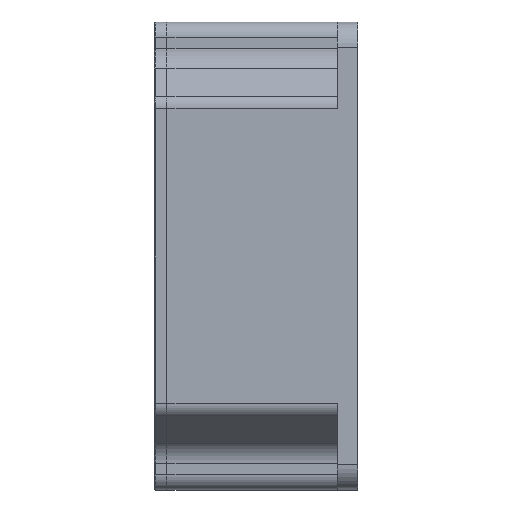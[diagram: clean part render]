
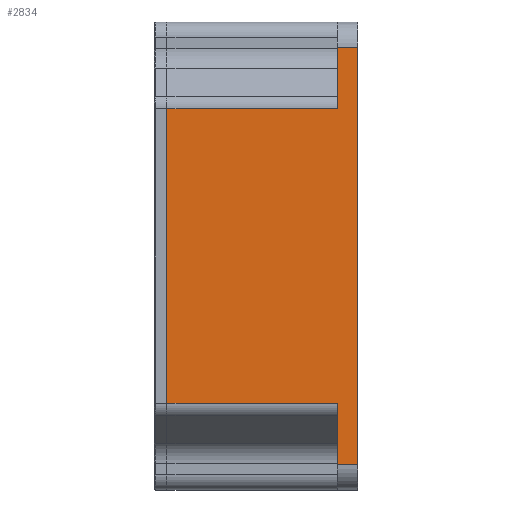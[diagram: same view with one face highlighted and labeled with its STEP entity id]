
A CAD part, left-side view. The second image highlights one B-rep face of the part: STEP entity #2834.
In plain terms, the highlighted planar face has unit normal (-1, 0, 0).
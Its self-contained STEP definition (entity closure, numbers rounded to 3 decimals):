
#2306 = LINE ( 'NONE', #2307, #21369 ) ;
#2307 = CARTESIAN_POINT ( 'NONE',  ( -53.5, -33.5, -46.2 ) ) ;
#2316 = DIRECTION ( 'NONE',  ( 0., 0., 1. ) ) ;
#2328 = CARTESIAN_POINT ( 'NONE',  ( -53.5, -33.5, 46.2 ) ) ;
#2333 = LINE ( 'NONE', #2328, #21371 ) ;
#2337 = DIRECTION ( 'NONE',  ( 0., 0., 1. ) ) ;
#2370 = LINE ( 'NONE', #19453, #21622 ) ;
#2834 = ADVANCED_FACE ( 'NONE', ( #14568 ), #14569, .T. ) ;
#3088 = EDGE_CURVE ( 'NONE', #20901, #20848, #2306, .T. ) ;
#3095 = EDGE_CURVE ( 'NONE', #20843, #20859, #2333, .T. ) ;
#3114 = EDGE_CURVE ( 'NONE', #20857, #20911, #19450, .T. ) ;
#3115 = EDGE_CURVE ( 'NONE', #20911, #20859, #2370, .T. ) ;
#3116 = EDGE_CURVE ( 'NONE', #20843, #20850, #19455, .T. ) ;
#3117 = EDGE_CURVE ( 'NONE', #20929, #20850, #19458, .T. ) ;
#3118 = EDGE_CURVE ( 'NONE', #20929, #20848, #19461, .T. ) ;
#3119 = EDGE_CURVE ( 'NONE', #20901, #20857, #19464, .T. ) ;
#12204 = ORIENTED_EDGE ( 'NONE', *, *, #3088, .F. ) ;
#12208 = ORIENTED_EDGE ( 'NONE', *, *, #3119, .T. ) ;
#14557 = CARTESIAN_POINT ( 'NONE',  ( -53.5, -37.5, 46. ) ) ;
#14568 = FACE_OUTER_BOUND ( 'NONE', #23946, .T. ) ;
#14569 = PLANE ( 'NONE',  #21571 ) ;
#14571 = DIRECTION ( 'NONE',  ( -1., 0., 0. ) ) ;
#14572 = DIRECTION ( 'NONE',  ( 0., 0., 1. ) ) ;
#18088 = CARTESIAN_POINT ( 'NONE',  ( -53.5, -33.5, -28.967 ) ) ;
#18090 = CARTESIAN_POINT ( 'NONE',  ( -53.5, -33.5, 28.967 ) ) ;
#18100 = CARTESIAN_POINT ( 'NONE',  ( -53.5, -37.5, -41. ) ) ;
#18102 = CARTESIAN_POINT ( 'NONE',  ( -53.5, 0., 28.967 ) ) ;
#18104 = CARTESIAN_POINT ( 'NONE',  ( -53.5, -33.5, 41. ) ) ;
#18190 = CARTESIAN_POINT ( 'NONE',  ( -53.5, -33.5, -41. ) ) ;
#18209 = CARTESIAN_POINT ( 'NONE',  ( -53.5, -37.5, 41. ) ) ;
#18243 = CARTESIAN_POINT ( 'NONE',  ( -53.5, 0., -28.967 ) ) ;
#19450 = LINE ( 'NONE', #19451, #21684 ) ;
#19451 = CARTESIAN_POINT ( 'NONE',  ( -53.5, -37.5, 46. ) ) ;
#19452 = DIRECTION ( 'NONE',  ( 0., 0., 1. ) ) ;
#19453 = CARTESIAN_POINT ( 'NONE',  ( -53.5, -37.5, 41. ) ) ;
#19454 = DIRECTION ( 'NONE',  ( 0., 1., 0. ) ) ;
#19455 = LINE ( 'NONE', #19456, #21676 ) ;
#19456 = CARTESIAN_POINT ( 'NONE',  ( -53.5, 0., 28.967 ) ) ;
#19457 = DIRECTION ( 'NONE',  ( 0., 1., 0. ) ) ;
#19458 = LINE ( 'NONE', #19459, #21668 ) ;
#19459 = CARTESIAN_POINT ( 'NONE',  ( -53.5, 0., 46. ) ) ;
#19460 = DIRECTION ( 'NONE',  ( 0., 0., 1. ) ) ;
#19461 = LINE ( 'NONE', #19462, #21672 ) ;
#19462 = CARTESIAN_POINT ( 'NONE',  ( -53.5, -33.5, -28.967 ) ) ;
#19463 = DIRECTION ( 'NONE',  ( 0., -1., 0. ) ) ;
#19464 = LINE ( 'NONE', #19465, #21711 ) ;
#19465 = CARTESIAN_POINT ( 'NONE',  ( -53.5, -37.5, -41. ) ) ;
#19466 = DIRECTION ( 'NONE',  ( 0., -1., 0. ) ) ;
#20843 = VERTEX_POINT ( 'NONE', #18090 ) ;
#20848 = VERTEX_POINT ( 'NONE', #18088 ) ;
#20850 = VERTEX_POINT ( 'NONE', #18102 ) ;
#20857 = VERTEX_POINT ( 'NONE', #18100 ) ;
#20859 = VERTEX_POINT ( 'NONE', #18104 ) ;
#20901 = VERTEX_POINT ( 'NONE', #18190 ) ;
#20911 = VERTEX_POINT ( 'NONE', #18209 ) ;
#20929 = VERTEX_POINT ( 'NONE', #18243 ) ;
#21369 = VECTOR ( 'NONE', #2316, 1000. ) ;
#21371 = VECTOR ( 'NONE', #2337, 1000. ) ;
#21571 = AXIS2_PLACEMENT_3D ( 'NONE', #14557, #14571, #14572 ) ;
#21622 = VECTOR ( 'NONE', #19454, 1000. ) ;
#21668 = VECTOR ( 'NONE', #19460, 1000. ) ;
#21672 = VECTOR ( 'NONE', #19463, 1000. ) ;
#21676 = VECTOR ( 'NONE', #19457, 1000. ) ;
#21684 = VECTOR ( 'NONE', #19452, 1000. ) ;
#21711 = VECTOR ( 'NONE', #19466, 1000. ) ;
#23946 = EDGE_LOOP ( 'NONE', ( #26987, #26988, #26989, #26990, #26991, #26992, #12204, #12208 ) ) ;
#26987 = ORIENTED_EDGE ( 'NONE', *, *, #3114, .T. ) ;
#26988 = ORIENTED_EDGE ( 'NONE', *, *, #3115, .T. ) ;
#26989 = ORIENTED_EDGE ( 'NONE', *, *, #3095, .F. ) ;
#26990 = ORIENTED_EDGE ( 'NONE', *, *, #3116, .T. ) ;
#26991 = ORIENTED_EDGE ( 'NONE', *, *, #3117, .F. ) ;
#26992 = ORIENTED_EDGE ( 'NONE', *, *, #3118, .T. ) ;
